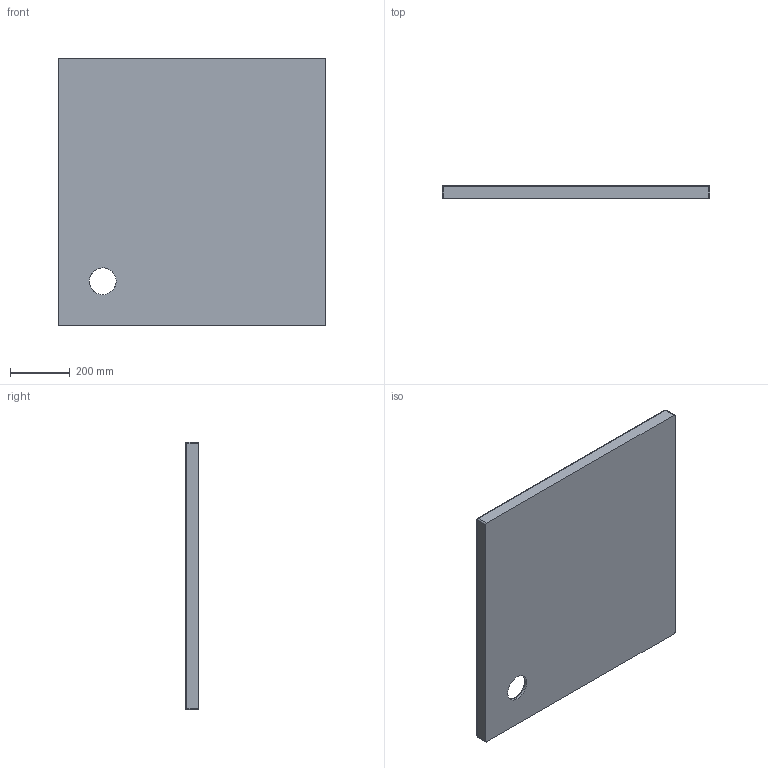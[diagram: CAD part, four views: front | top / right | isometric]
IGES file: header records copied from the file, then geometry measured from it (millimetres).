
Global section: file name: bec8c848-aa7e-44b4-ba58-a87b344b9577; native system: unknown; preprocessor: unknown; author: unknown; organization: unknown; date: 20200103.083009; units: millimetre
Bounding box: 900 x 45 x 900 mm (x, y, z)
Volume: 23049313.1 mm3; surface area: 1817372 mm2
Topology: 1 solids, 1 shells, 47 faces, 98 edges, 54 vertices
Faces by surface type: bspline 47
